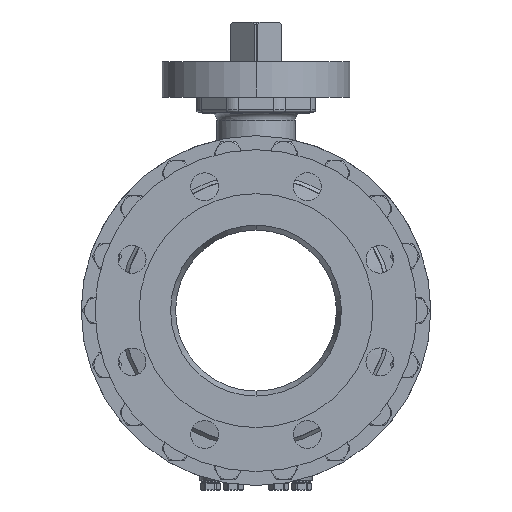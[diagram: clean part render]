
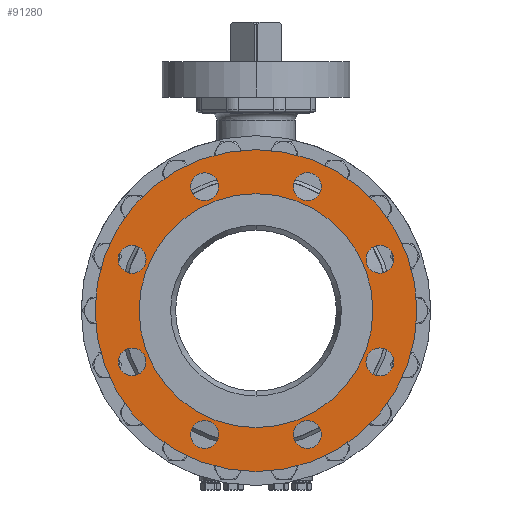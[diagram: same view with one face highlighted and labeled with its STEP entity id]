
A CAD part, left-side view. The second image highlights one B-rep face of the part: STEP entity #91280.
In plain terms, the highlighted planar face has unit normal (-1, 0, 0).
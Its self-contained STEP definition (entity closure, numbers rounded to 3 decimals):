
#14516=CARTESIAN_POINT('',(-194.,0.,0.));
#14517=DIRECTION('',(-1.,0.,0.));
#14518=DIRECTION('',(0.,0.,1.));
#14519=AXIS2_PLACEMENT_3D('',#14516,#14517,#14518);
#14521=CARTESIAN_POINT('',(-194.,0.,0.));
#14522=DIRECTION('',(-1.,0.,0.));
#14523=DIRECTION('',(0.,0.,-1.));
#14524=AXIS2_PLACEMENT_3D('',#14521,#14522,#14523);
#14526=CARTESIAN_POINT('',(-194.,-47.835,115.485));
#14527=DIRECTION('',(-1.,0.,0.));
#14528=DIRECTION('',(0.,-1.,0.));
#14529=AXIS2_PLACEMENT_3D('',#14526,#14527,#14528);
#14531=CARTESIAN_POINT('',(-194.,-47.835,115.485));
#14532=DIRECTION('',(-1.,0.,0.));
#14533=DIRECTION('',(0.,1.,0.));
#14534=AXIS2_PLACEMENT_3D('',#14531,#14532,#14533);
#14536=CARTESIAN_POINT('',(-194.,47.835,115.485));
#14537=DIRECTION('',(-1.,0.,0.));
#14538=DIRECTION('',(0.,-0.707,0.707));
#14539=AXIS2_PLACEMENT_3D('',#14536,#14537,#14538);
#14541=CARTESIAN_POINT('',(-194.,47.835,115.485));
#14542=DIRECTION('',(-1.,0.,0.));
#14543=DIRECTION('',(0.,0.707,-0.707));
#14544=AXIS2_PLACEMENT_3D('',#14541,#14542,#14543);
#14546=CARTESIAN_POINT('',(-194.,115.485,47.835));
#14547=DIRECTION('',(-1.,0.,0.));
#14548=DIRECTION('',(0.,0.,1.));
#14549=AXIS2_PLACEMENT_3D('',#14546,#14547,#14548);
#14551=CARTESIAN_POINT('',(-194.,115.485,47.835));
#14552=DIRECTION('',(-1.,0.,0.));
#14553=DIRECTION('',(0.,0.,-1.));
#14554=AXIS2_PLACEMENT_3D('',#14551,#14552,#14553);
#14556=CARTESIAN_POINT('',(-194.,115.485,-47.835));
#14557=DIRECTION('',(-1.,0.,0.));
#14558=DIRECTION('',(0.,0.707,0.707));
#14559=AXIS2_PLACEMENT_3D('',#14556,#14557,#14558);
#14561=CARTESIAN_POINT('',(-194.,115.485,-47.835));
#14562=DIRECTION('',(-1.,0.,0.));
#14563=DIRECTION('',(0.,-0.707,-0.707));
#14564=AXIS2_PLACEMENT_3D('',#14561,#14562,#14563);
#14566=CARTESIAN_POINT('',(-194.,47.835,-115.485));
#14567=DIRECTION('',(-1.,0.,0.));
#14568=DIRECTION('',(0.,1.,0.));
#14569=AXIS2_PLACEMENT_3D('',#14566,#14567,#14568);
#14571=CARTESIAN_POINT('',(-194.,47.835,-115.485));
#14572=DIRECTION('',(-1.,0.,0.));
#14573=DIRECTION('',(0.,-1.,0.));
#14574=AXIS2_PLACEMENT_3D('',#14571,#14572,#14573);
#14576=CARTESIAN_POINT('',(-194.,-47.835,-115.485));
#14577=DIRECTION('',(-1.,0.,0.));
#14578=DIRECTION('',(0.,0.707,-0.707));
#14579=AXIS2_PLACEMENT_3D('',#14576,#14577,#14578);
#14581=CARTESIAN_POINT('',(-194.,-47.835,-115.485));
#14582=DIRECTION('',(-1.,0.,0.));
#14583=DIRECTION('',(0.,-0.707,0.707));
#14584=AXIS2_PLACEMENT_3D('',#14581,#14582,#14583);
#14586=CARTESIAN_POINT('',(-194.,-115.485,-47.835));
#14587=DIRECTION('',(-1.,0.,0.));
#14588=DIRECTION('',(0.,0.,-1.));
#14589=AXIS2_PLACEMENT_3D('',#14586,#14587,#14588);
#14591=CARTESIAN_POINT('',(-194.,-115.485,-47.835));
#14592=DIRECTION('',(-1.,0.,0.));
#14593=DIRECTION('',(0.,0.,1.));
#14594=AXIS2_PLACEMENT_3D('',#14591,#14592,#14593);
#14596=CARTESIAN_POINT('',(-194.,-115.485,47.835));
#14597=DIRECTION('',(-1.,0.,0.));
#14598=DIRECTION('',(0.,-0.707,-0.707));
#14599=AXIS2_PLACEMENT_3D('',#14596,#14597,#14598);
#14601=CARTESIAN_POINT('',(-194.,-115.485,47.835));
#14602=DIRECTION('',(-1.,0.,0.));
#14603=DIRECTION('',(0.,0.707,0.707));
#14604=AXIS2_PLACEMENT_3D('',#14601,#14602,#14603);
#14610=CARTESIAN_POINT('',(-194.,0.,0.));
#14611=DIRECTION('',(-1.,0.,0.));
#14612=DIRECTION('',(0.,0.,1.));
#14613=AXIS2_PLACEMENT_3D('',#14610,#14611,#14612);
#14639=CARTESIAN_POINT('',(-194.,0.,0.));
#14640=DIRECTION('',(1.,0.,0.));
#14641=DIRECTION('',(0.,0.,1.));
#14642=AXIS2_PLACEMENT_3D('',#14639,#14640,#14641);
#57963=CARTESIAN_POINT('',(-194.,0.,109.));
#57964=CARTESIAN_POINT('',(-194.,0.,-109.));
#57965=VERTEX_POINT('',#57963);
#57966=VERTEX_POINT('',#57964);
#57967=CARTESIAN_POINT('',(-194.,0.,150.));
#57968=CARTESIAN_POINT('',(-194.,0.,-150.));
#57969=VERTEX_POINT('',#57967);
#57970=VERTEX_POINT('',#57968);
#57979=CARTESIAN_POINT('',(-194.,-60.835,115.485));
#57980=CARTESIAN_POINT('',(-194.,-34.835,115.485));
#57981=VERTEX_POINT('',#57979);
#57982=VERTEX_POINT('',#57980);
#57987=CARTESIAN_POINT('',(-194.,38.643,124.677));
#57988=CARTESIAN_POINT('',(-194.,57.028,106.293));
#57989=VERTEX_POINT('',#57987);
#57990=VERTEX_POINT('',#57988);
#57995=CARTESIAN_POINT('',(-194.,115.485,60.835));
#57996=CARTESIAN_POINT('',(-194.,115.485,34.835));
#57997=VERTEX_POINT('',#57995);
#57998=VERTEX_POINT('',#57996);
#58003=CARTESIAN_POINT('',(-194.,124.677,-38.643));
#58004=CARTESIAN_POINT('',(-194.,106.293,-57.028));
#58005=VERTEX_POINT('',#58003);
#58006=VERTEX_POINT('',#58004);
#58011=CARTESIAN_POINT('',(-194.,60.835,-115.485));
#58012=CARTESIAN_POINT('',(-194.,34.835,-115.485));
#58013=VERTEX_POINT('',#58011);
#58014=VERTEX_POINT('',#58012);
#58019=CARTESIAN_POINT('',(-194.,-38.643,-124.677));
#58020=CARTESIAN_POINT('',(-194.,-57.028,-106.293));
#58021=VERTEX_POINT('',#58019);
#58022=VERTEX_POINT('',#58020);
#58027=CARTESIAN_POINT('',(-194.,-115.485,-60.835));
#58028=CARTESIAN_POINT('',(-194.,-115.485,-34.835));
#58029=VERTEX_POINT('',#58027);
#58030=VERTEX_POINT('',#58028);
#58035=CARTESIAN_POINT('',(-194.,-124.677,38.643));
#58036=CARTESIAN_POINT('',(-194.,-106.293,57.028));
#58037=VERTEX_POINT('',#58035);
#58038=VERTEX_POINT('',#58036);
#91216=CARTESIAN_POINT('',(-194.,0.,0.));
#91217=DIRECTION('',(1.,0.,0.));
#91218=DIRECTION('',(0.,0.,1.));
#91219=AXIS2_PLACEMENT_3D('',#91216,#91217,#91218);
#91220=PLANE('',#91219);
#91222=ORIENTED_EDGE('',*,*,#91221,.F.);
#91223=ORIENTED_EDGE('',*,*,#91206,.F.);
#91224=EDGE_LOOP('',(#91222,#91223));
#91225=FACE_OUTER_BOUND('',#91224,.F.);
#91227=ORIENTED_EDGE('',*,*,#91226,.T.);
#91229=ORIENTED_EDGE('',*,*,#91228,.F.);
#91230=EDGE_LOOP('',(#91227,#91229));
#91231=FACE_BOUND('',#91230,.F.);
#91233=ORIENTED_EDGE('',*,*,#91232,.T.);
#91235=ORIENTED_EDGE('',*,*,#91234,.T.);
#91236=EDGE_LOOP('',(#91233,#91235));
#91237=FACE_BOUND('',#91236,.F.);
#91239=ORIENTED_EDGE('',*,*,#91238,.T.);
#91241=ORIENTED_EDGE('',*,*,#91240,.T.);
#91242=EDGE_LOOP('',(#91239,#91241));
#91243=FACE_BOUND('',#91242,.F.);
#91245=ORIENTED_EDGE('',*,*,#91244,.T.);
#91247=ORIENTED_EDGE('',*,*,#91246,.T.);
#91248=EDGE_LOOP('',(#91245,#91247));
#91249=FACE_BOUND('',#91248,.F.);
#91251=ORIENTED_EDGE('',*,*,#91250,.T.);
#91253=ORIENTED_EDGE('',*,*,#91252,.T.);
#91254=EDGE_LOOP('',(#91251,#91253));
#91255=FACE_BOUND('',#91254,.F.);
#91257=ORIENTED_EDGE('',*,*,#91256,.T.);
#91259=ORIENTED_EDGE('',*,*,#91258,.T.);
#91260=EDGE_LOOP('',(#91257,#91259));
#91261=FACE_BOUND('',#91260,.F.);
#91263=ORIENTED_EDGE('',*,*,#91262,.T.);
#91265=ORIENTED_EDGE('',*,*,#91264,.T.);
#91266=EDGE_LOOP('',(#91263,#91265));
#91267=FACE_BOUND('',#91266,.F.);
#91269=ORIENTED_EDGE('',*,*,#91268,.T.);
#91271=ORIENTED_EDGE('',*,*,#91270,.T.);
#91272=EDGE_LOOP('',(#91269,#91271));
#91273=FACE_BOUND('',#91272,.F.);
#91275=ORIENTED_EDGE('',*,*,#91274,.T.);
#91277=ORIENTED_EDGE('',*,*,#91276,.T.);
#91278=EDGE_LOOP('',(#91275,#91277));
#91279=FACE_BOUND('',#91278,.F.);
#91280=ADVANCED_FACE('',(#91225,#91231,#91237,#91243,#91249,#91255,#91261,
#91267,#91273,#91279),#91220,.F.);
#14520=CIRCLE('',#14519,150.);
#14525=CIRCLE('',#14524,150.);
#14530=CIRCLE('',#14529,13.);
#14535=CIRCLE('',#14534,13.);
#14540=CIRCLE('',#14539,13.);
#14545=CIRCLE('',#14544,13.);
#14550=CIRCLE('',#14549,13.);
#14555=CIRCLE('',#14554,13.);
#14560=CIRCLE('',#14559,13.);
#14565=CIRCLE('',#14564,13.);
#14570=CIRCLE('',#14569,13.);
#14575=CIRCLE('',#14574,13.);
#14580=CIRCLE('',#14579,13.);
#14585=CIRCLE('',#14584,13.);
#14590=CIRCLE('',#14589,13.);
#14595=CIRCLE('',#14594,13.);
#14600=CIRCLE('',#14599,13.);
#14605=CIRCLE('',#14604,13.);
#14614=CIRCLE('',#14613,109.);
#14643=CIRCLE('',#14642,109.);
#91206=EDGE_CURVE('',#57970,#57969,#14525,.T.);
#91221=EDGE_CURVE('',#57969,#57970,#14520,.T.);
#91226=EDGE_CURVE('',#57965,#57966,#14614,.T.);
#91228=EDGE_CURVE('',#57965,#57966,#14643,.T.);
#91232=EDGE_CURVE('',#57981,#57982,#14530,.T.);
#91234=EDGE_CURVE('',#57982,#57981,#14535,.T.);
#91238=EDGE_CURVE('',#57989,#57990,#14540,.T.);
#91240=EDGE_CURVE('',#57990,#57989,#14545,.T.);
#91244=EDGE_CURVE('',#57997,#57998,#14550,.T.);
#91246=EDGE_CURVE('',#57998,#57997,#14555,.T.);
#91250=EDGE_CURVE('',#58005,#58006,#14560,.T.);
#91252=EDGE_CURVE('',#58006,#58005,#14565,.T.);
#91256=EDGE_CURVE('',#58013,#58014,#14570,.T.);
#91258=EDGE_CURVE('',#58014,#58013,#14575,.T.);
#91262=EDGE_CURVE('',#58021,#58022,#14580,.T.);
#91264=EDGE_CURVE('',#58022,#58021,#14585,.T.);
#91268=EDGE_CURVE('',#58029,#58030,#14590,.T.);
#91270=EDGE_CURVE('',#58030,#58029,#14595,.T.);
#91274=EDGE_CURVE('',#58037,#58038,#14600,.T.);
#91276=EDGE_CURVE('',#58038,#58037,#14605,.T.);
